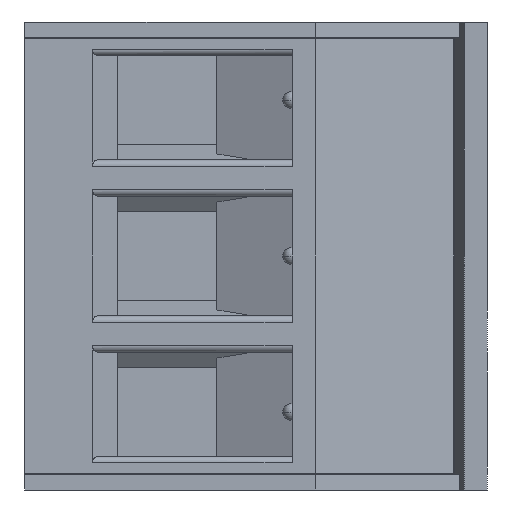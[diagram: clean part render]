
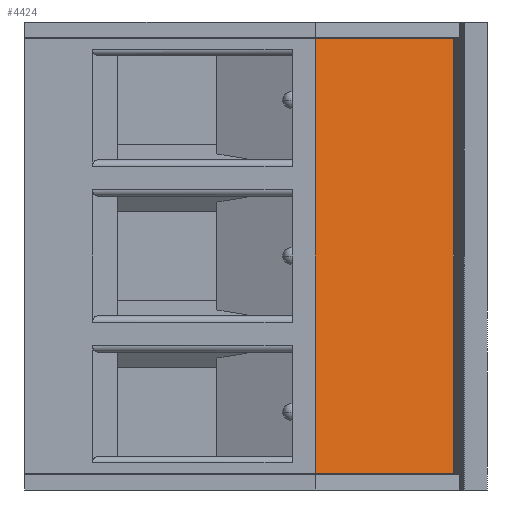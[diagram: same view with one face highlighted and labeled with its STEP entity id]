
A CAD part, front view. The second image highlights one B-rep face of the part: STEP entity #4424.
In plain terms, the highlighted planar face has unit normal (0.174, -0.985, 0).
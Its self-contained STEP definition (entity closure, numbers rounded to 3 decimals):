
#4 = EDGE_CURVE ( 'NONE', #147, #4732, #10345, .T. ) ;
#147 = VERTEX_POINT ( 'NONE', #13500 ) ;
#194 = VERTEX_POINT ( 'NONE', #8015 ) ;
#696 = EDGE_CURVE ( 'NONE', #7945, #147, #784, .T. ) ;
#784 = LINE ( 'NONE', #2926, #3563 ) ;
#1343 = CARTESIAN_POINT ( 'NONE',  ( 5.55, 0.3, 0.54 ) ) ;
#1440 = FACE_OUTER_BOUND ( 'NONE', #13635, .T. ) ;
#2616 = CARTESIAN_POINT ( 'NONE',  ( 10.05, 1.093, 14.7 ) ) ;
#2926 = CARTESIAN_POINT ( 'NONE',  ( 10.05, 1.093, 14.7 ) ) ;
#3086 = ORIENTED_EDGE ( 'NONE', *, *, #4436, .T. ) ;
#3286 = ORIENTED_EDGE ( 'NONE', *, *, #696, .T. ) ;
#3459 = CARTESIAN_POINT ( 'NONE',  ( 5.55, 0.3, 0.54 ) ) ;
#3563 = VECTOR ( 'NONE', #12978, 1000. ) ;
#3792 = DIRECTION ( 'NONE',  ( 0., 0., -1. ) ) ;
#3897 = CARTESIAN_POINT ( 'NONE',  ( 10.05, 1.093, 14.7 ) ) ;
#4424 = ADVANCED_FACE ( 'NONE', ( #1440 ), #4492, .T. ) ;
#4436 = EDGE_CURVE ( 'NONE', #4732, #194, #8810, .T. ) ;
#4492 = PLANE ( 'NONE',  #8767 ) ;
#4732 = VERTEX_POINT ( 'NONE', #1343 ) ;
#7067 = LINE ( 'NONE', #2616, #7782 ) ;
#7782 = VECTOR ( 'NONE', #3792, 1000. ) ;
#7945 = VERTEX_POINT ( 'NONE', #3897 ) ;
#8015 = CARTESIAN_POINT ( 'NONE',  ( 10.05, 1.093, 0.54 ) ) ;
#8327 = EDGE_CURVE ( 'NONE', #7945, #194, #7067, .T. ) ;
#8541 = VECTOR ( 'NONE', #13032, 1000. ) ;
#8739 = CARTESIAN_POINT ( 'NONE',  ( 10.05, 1.093, 20.32 ) ) ;
#8767 = AXIS2_PLACEMENT_3D ( 'NONE', #8739, #11987, #9014 ) ;
#8810 = LINE ( 'NONE', #3459, #8541 ) ;
#9014 = DIRECTION ( 'NONE',  ( 0., 0., -1. ) ) ;
#10262 = ORIENTED_EDGE ( 'NONE', *, *, #8327, .F. ) ;
#10345 = LINE ( 'NONE', #10404, #12843 ) ;
#10404 = CARTESIAN_POINT ( 'NONE',  ( 5.55, 0.3, 14.7 ) ) ;
#11987 = DIRECTION ( 'NONE',  ( 0.174, -0.985, 0. ) ) ;
#12686 = ORIENTED_EDGE ( 'NONE', *, *, #4, .T. ) ;
#12843 = VECTOR ( 'NONE', #13615, 1000. ) ;
#12978 = DIRECTION ( 'NONE',  ( -0.985, -0.174, 0. ) ) ;
#13032 = DIRECTION ( 'NONE',  ( 0.985, 0.174, 0. ) ) ;
#13500 = CARTESIAN_POINT ( 'NONE',  ( 5.55, 0.3, 14.7 ) ) ;
#13615 = DIRECTION ( 'NONE',  ( 0., 0., -1. ) ) ;
#13635 = EDGE_LOOP ( 'NONE', ( #3086, #10262, #3286, #12686 ) ) ;
